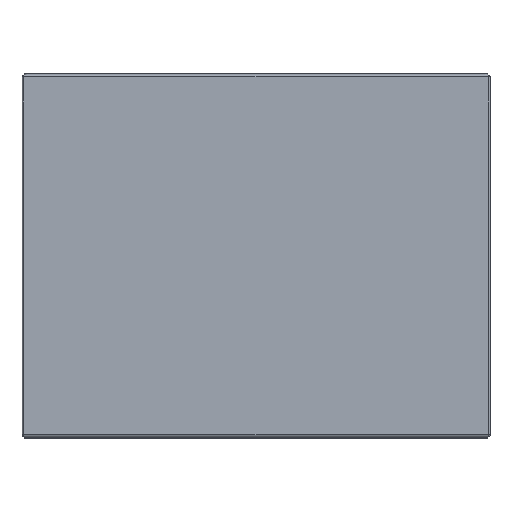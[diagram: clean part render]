
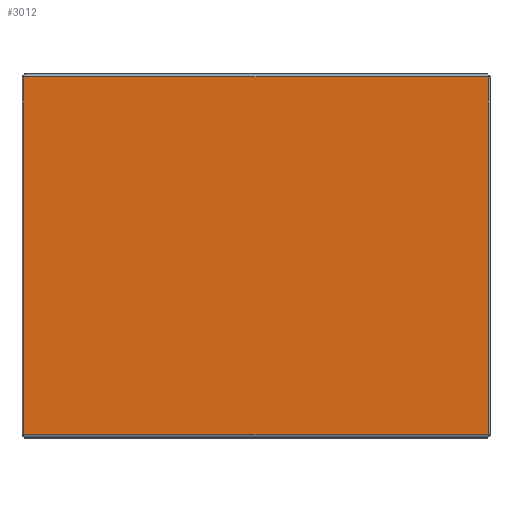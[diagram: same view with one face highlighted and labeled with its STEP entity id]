
A CAD part, top view. The second image highlights one B-rep face of the part: STEP entity #3012.
In plain terms, the highlighted planar face has unit normal (0, 0, 1).
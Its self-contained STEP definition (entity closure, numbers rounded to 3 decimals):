
#194 = CARTESIAN_POINT ( 'NONE',  ( 386., 27., 100. ) ) ;
#464 = VERTEX_POINT ( 'NONE', #4116 ) ;
#808 = VECTOR ( 'NONE', #929, 1000. ) ;
#823 = ORIENTED_EDGE ( 'NONE', *, *, #2689, .T. ) ;
#929 = DIRECTION ( 'NONE',  ( -1., 0., 0. ) ) ;
#1010 = CARTESIAN_POINT ( 'NONE',  ( 386., -568., 100. ) ) ;
#1071 = VERTEX_POINT ( 'NONE', #1010 ) ;
#1317 = VECTOR ( 'NONE', #6416, 1000. ) ;
#1475 = CARTESIAN_POINT ( 'NONE',  ( 440.212, 27., 100. ) ) ;
#1631 = CARTESIAN_POINT ( 'NONE',  ( 389., -568., 100. ) ) ;
#1742 = DIRECTION ( 'NONE',  ( 0., -1., 0. ) ) ;
#1751 = LINE ( 'NONE', #4885, #3010 ) ;
#1972 = EDGE_CURVE ( 'NONE', #3035, #464, #1751, .T. ) ;
#2128 = CARTESIAN_POINT ( 'NONE',  ( 440.212, 28., 100. ) ) ;
#2249 = ORIENTED_EDGE ( 'NONE', *, *, #2334, .T. ) ;
#2334 = EDGE_CURVE ( 'NONE', #4555, #3035, #3654, .T. ) ;
#2640 = PLANE ( 'NONE',  #2691 ) ;
#2689 = EDGE_CURVE ( 'NONE', #1071, #4555, #6700, .T. ) ;
#2691 = AXIS2_PLACEMENT_3D ( 'NONE', #2128, #3203, #6652 ) ;
#3010 = VECTOR ( 'NONE', #1742, 1000. ) ;
#3012 = ADVANCED_FACE ( 'NONE', ( #5089 ), #2640, .F. ) ;
#3035 = VERTEX_POINT ( 'NONE', #3223 ) ;
#3054 = EDGE_CURVE ( 'NONE', #464, #1071, #4938, .T. ) ;
#3203 = DIRECTION ( 'NONE',  ( 0., 0., -1. ) ) ;
#3223 = CARTESIAN_POINT ( 'NONE',  ( -386., 27., 100. ) ) ;
#3654 = LINE ( 'NONE', #1475, #808 ) ;
#3922 = EDGE_LOOP ( 'NONE', ( #6139, #823, #2249, #5033 ) ) ;
#3983 = CARTESIAN_POINT ( 'NONE',  ( 386., 30., 100. ) ) ;
#4116 = CARTESIAN_POINT ( 'NONE',  ( -386., -568., 100. ) ) ;
#4555 = VERTEX_POINT ( 'NONE', #194 ) ;
#4784 = DIRECTION ( 'NONE',  ( 1., 0., 0. ) ) ;
#4885 = CARTESIAN_POINT ( 'NONE',  ( -386., -571., 100. ) ) ;
#4938 = LINE ( 'NONE', #1631, #6050 ) ;
#5033 = ORIENTED_EDGE ( 'NONE', *, *, #1972, .T. ) ;
#5089 = FACE_OUTER_BOUND ( 'NONE', #3922, .T. ) ;
#6050 = VECTOR ( 'NONE', #4784, 1000. ) ;
#6139 = ORIENTED_EDGE ( 'NONE', *, *, #3054, .T. ) ;
#6416 = DIRECTION ( 'NONE',  ( 0., 1., 0. ) ) ;
#6652 = DIRECTION ( 'NONE',  ( -1., 0., 0. ) ) ;
#6700 = LINE ( 'NONE', #3983, #1317 ) ;
